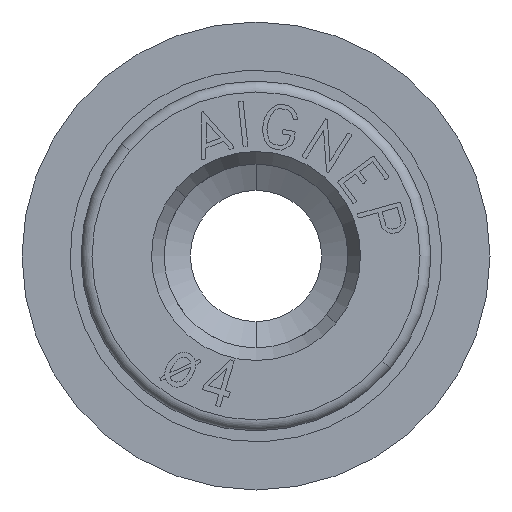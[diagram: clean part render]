
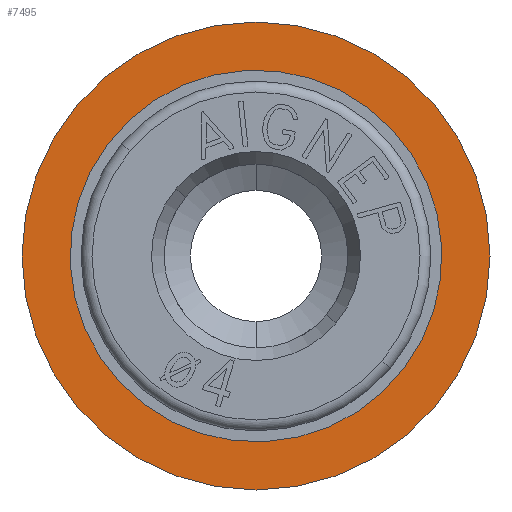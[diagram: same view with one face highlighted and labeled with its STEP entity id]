
A CAD part, front view. The second image highlights one B-rep face of the part: STEP entity #7495.
In plain terms, the highlighted planar face has unit normal (0, -1, 0).
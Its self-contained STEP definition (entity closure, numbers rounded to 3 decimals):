
#1638 = CARTESIAN_POINT ( 'NONE',  ( 0., 0., 0. ) ) ;
#2060 = CARTESIAN_POINT ( 'NONE',  ( 0., 0., 0. ) ) ;
#2326 = ORIENTED_EDGE ( 'NONE', *, *, #3126, .T. ) ;
#2626 = EDGE_CURVE ( 'NONE', #3068, #7092, #15460, .T. ) ;
#2964 = CIRCLE ( 'NONE', #18924, 4.25 ) ;
#3068 = VERTEX_POINT ( 'NONE', #9712 ) ;
#3126 = EDGE_CURVE ( 'NONE', #7092, #3068, #2964, .T. ) ;
#3479 = FACE_OUTER_BOUND ( 'NONE', #12989, .T. ) ;
#4296 = AXIS2_PLACEMENT_3D ( 'NONE', #22623, #15014, #20832 ) ;
#4991 = VERTEX_POINT ( 'NONE', #22644 ) ;
#6558 = AXIS2_PLACEMENT_3D ( 'NONE', #18229, #12640, #12752 ) ;
#6937 = PLANE ( 'NONE',  #6558 ) ;
#6993 = CIRCLE ( 'NONE', #4296, 5.35 ) ;
#7092 = VERTEX_POINT ( 'NONE', #16987 ) ;
#7495 = ADVANCED_FACE ( 'NONE', ( #10503, #3479 ), #6937, .T. ) ;
#8865 = DIRECTION ( 'NONE',  ( 0.391, 0., -0.921 ) ) ;
#9192 = DIRECTION ( 'NONE',  ( 0., -1., 0. ) ) ;
#9287 = EDGE_CURVE ( 'NONE', #4991, #12355, #16484, .T. ) ;
#9712 = CARTESIAN_POINT ( 'NONE',  ( 1.66, 0., -3.912 ) ) ;
#10503 = FACE_BOUND ( 'NONE', #17268, .T. ) ;
#11000 = ORIENTED_EDGE ( 'NONE', *, *, #18202, .T. ) ;
#11447 = DIRECTION ( 'NONE',  ( 0., 1., 0. ) ) ;
#12355 = VERTEX_POINT ( 'NONE', #20791 ) ;
#12640 = DIRECTION ( 'NONE',  ( 0., -1., 0. ) ) ;
#12752 = DIRECTION ( 'NONE',  ( 0., 0., -1. ) ) ;
#12989 = EDGE_LOOP ( 'NONE', ( #21793, #11000 ) ) ;
#15014 = DIRECTION ( 'NONE',  ( 0., -1., 0. ) ) ;
#15460 = CIRCLE ( 'NONE', #20771, 4.25 ) ;
#15663 = DIRECTION ( 'NONE',  ( 0., 1., 0. ) ) ;
#16484 = CIRCLE ( 'NONE', #20638, 5.35 ) ;
#16987 = CARTESIAN_POINT ( 'NONE',  ( -1.66, 0., 3.912 ) ) ;
#17268 = EDGE_LOOP ( 'NONE', ( #21717, #2326 ) ) ;
#18122 = DIRECTION ( 'NONE',  ( 0., 0., -1. ) ) ;
#18202 = EDGE_CURVE ( 'NONE', #12355, #4991, #6993, .T. ) ;
#18229 = CARTESIAN_POINT ( 'NONE',  ( 5.35, 0., 0. ) ) ;
#18924 = AXIS2_PLACEMENT_3D ( 'NONE', #1638, #15663, #8865 ) ;
#20233 = DIRECTION ( 'NONE',  ( 0.391, 0., -0.921 ) ) ;
#20638 = AXIS2_PLACEMENT_3D ( 'NONE', #22134, #9192, #18122 ) ;
#20771 = AXIS2_PLACEMENT_3D ( 'NONE', #2060, #11447, #20233 ) ;
#20791 = CARTESIAN_POINT ( 'NONE',  ( 0., 0., 5.35 ) ) ;
#20832 = DIRECTION ( 'NONE',  ( 0., 0., -1. ) ) ;
#21717 = ORIENTED_EDGE ( 'NONE', *, *, #2626, .T. ) ;
#21793 = ORIENTED_EDGE ( 'NONE', *, *, #9287, .T. ) ;
#22134 = CARTESIAN_POINT ( 'NONE',  ( 0., 0., 0. ) ) ;
#22623 = CARTESIAN_POINT ( 'NONE',  ( 0., 0., 0. ) ) ;
#22644 = CARTESIAN_POINT ( 'NONE',  ( 0., 0., -5.35 ) ) ;
